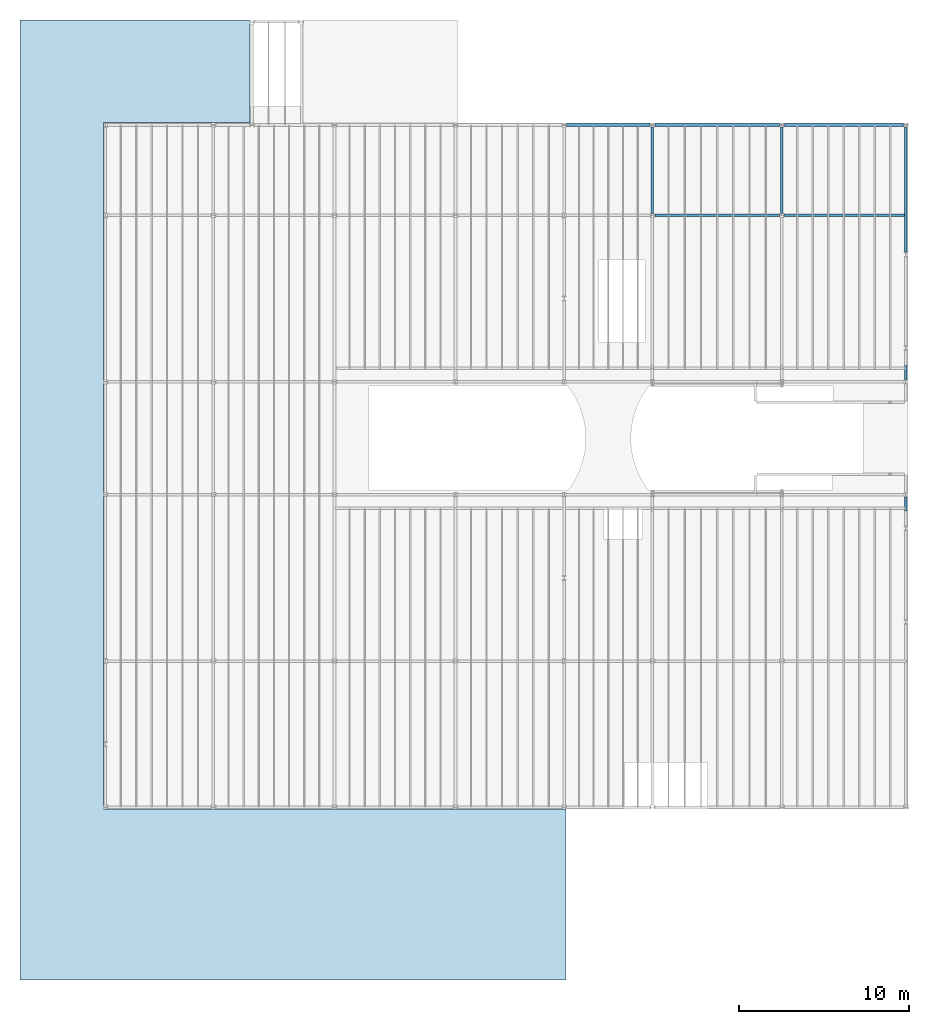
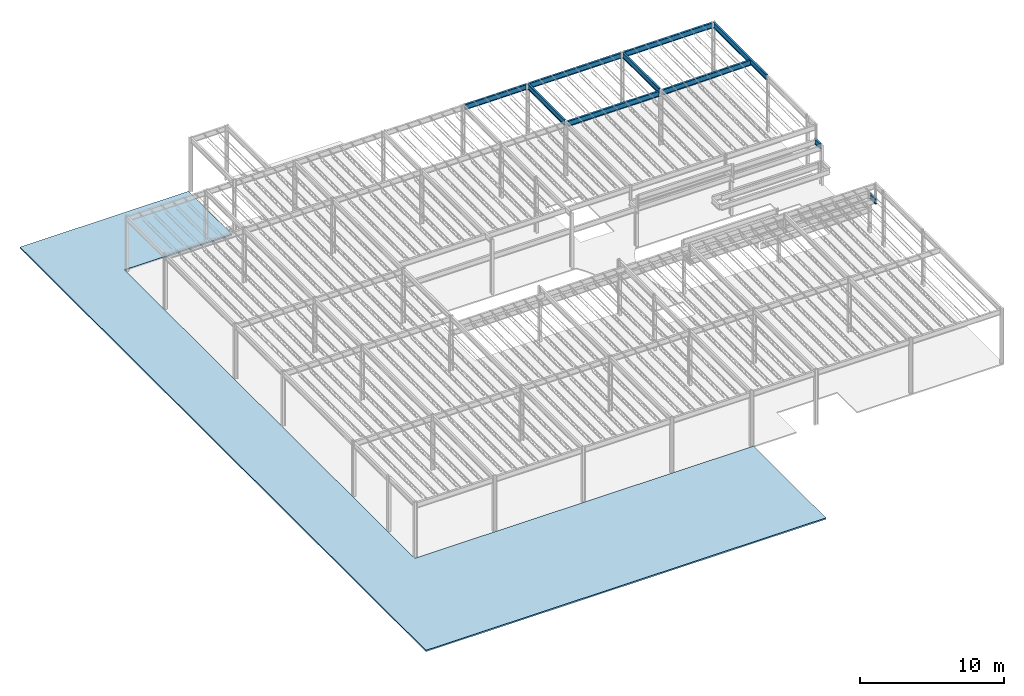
# One storey, part 18 of 119: 10 beams, 1 slab, 1 element without a shape of its own.
"""IFC2X3 building model written with IfcOpenShell, lengths in metres."""

from ifc_helpers import new_model, entity, si_unit, converted_unit, frame, frame_2d, origin, place, context, project, spatial, polyline, circle_curve, parameter, trimmed, segment, composite_curve, outline, extrude, material, layer, layer_set, layer_usage, element, aggregate, save


model = new_model("IFC2X3")

# Units and contexts
model_context = context("Model", 3, precision=1e-09, world=origin())
plan_context = context("Plan", 3, precision=1e-09, world=origin())
ifc_project = project(units=[si_unit("LENGTHUNIT", "METRE"), si_unit("AREAUNIT", "SQUARE_METRE"), si_unit("VOLUMEUNIT", "CUBIC_METRE"), converted_unit("PLANEANGLEUNIT", "DEGREE", entity("IfcRatioMeasure", 0.01745329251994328), si_unit("PLANEANGLEUNIT", "RADIAN"), dimensions=[0, 0, 0, 0, 0, 0, 0]), si_unit("TIMEUNIT", "SECOND")], contexts=[model_context, plan_context])

# Site, building, storey
site_placement = place(None, origin())
site = spatial("IfcSite", under=ifc_project, at=site_placement, Name="Default", CompositionType="ELEMENT")
building_placement = place(site_placement, origin())
building = spatial("IfcBuilding", under=site, at=building_placement, CompositionType="ELEMENT")
storey_placement = place(building_placement, frame((0.0, 0.0, 4.570000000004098)))
storey = spatial("IfcBuildingStorey", under=building, at=storey_placement, Name="Second Floor", CompositionType="ELEMENT", Elevation=4.570000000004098)

# Beams
ifc_material_1 = material(Name="Metal - Steel - 345 MPa")
beam_1_placement = place(storey_placement, frame((-7.277404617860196, 44.77999999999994, 4.616522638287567), z_axis=(-0.008722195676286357, 0.0, 0.9999619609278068), x_axis=(0.0, -1.0, 0.0)))
element("IfcBeam", 1, at=beam_1_placement, inside=storey, material=ifc_material_1, Name="M_W-Wide Flange:W460X60:W460X60", ObjectType="M_W-Wide Flange:W460X60", context=model_context, shape_type="SweptSolid", body=[
    extrude(outline(composite_curve([segment(polyline([(-0.07649999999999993, -0.214199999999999), (-0.07649999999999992, -0.2275000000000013)]), True, "CONTINUOUS"), segment(polyline([(-0.07649999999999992, -0.2275000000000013), (0.07649999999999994, -0.2275000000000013)]), True, "CONTINUOUS"), segment(polyline([(0.07649999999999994, -0.2275000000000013), (0.07649999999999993, -0.214199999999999)]), True, "CONTINUOUS"), segment(polyline([(0.07649999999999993, -0.214199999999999), (0.02170000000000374, -0.214199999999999)]), True, "CONTINUOUS"), segment(trimmed(circle_curve(frame_2d((0.02169999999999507, -0.1964999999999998), x_axis=(1.0, 0.0)), 0.0177), [parameter(180.0)], [parameter(269.9999999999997)], True, "PARAMETER"), False, "CONTINUOUS"), segment(polyline([(0.003999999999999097, -0.1964999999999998), (0.003999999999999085, 0.1964999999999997)]), True, "CONTINUOUS"), segment(trimmed(circle_curve(frame_2d((0.02169999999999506, 0.1964999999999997), x_axis=(1.0, 0.0)), 0.0177), [parameter(90.00000000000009)], [parameter(179.9999999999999)], True, "PARAMETER"), False, "CONTINUOUS"), segment(polyline([(0.02170000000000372, 0.2142), (0.07649999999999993, 0.2142)]), True, "CONTINUOUS"), segment(polyline([(0.07649999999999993, 0.2142), (0.07649999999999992, 0.2274999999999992)]), True, "CONTINUOUS"), segment(polyline([(0.07649999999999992, 0.2274999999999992), (-0.07649999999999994, 0.2274999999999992)]), True, "CONTINUOUS"), segment(polyline([(-0.07649999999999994, 0.2274999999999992), (-0.07649999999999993, 0.2142)]), True, "CONTINUOUS"), segment(polyline([(-0.07649999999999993, 0.2142), (-0.02170000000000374, 0.2142)]), True, "CONTINUOUS"), segment(trimmed(circle_curve(frame_2d((-0.02170000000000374, 0.1964999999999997), x_axis=(1.0, 0.0)), 0.0177), [parameter(359.9999999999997)], [parameter(89.99999999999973)], True, "PARAMETER"), False, "CONTINUOUS"), segment(polyline([(-0.003999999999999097, 0.1964999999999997), (-0.003999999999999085, -0.1964999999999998)]), True, "CONTINUOUS"), segment(trimmed(circle_curve(frame_2d((-0.02170000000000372, -0.1964999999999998), x_axis=(1.0, 0.0)), 0.0177), [parameter(269.9999999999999)], [parameter(0.0)], True, "PARAMETER"), False, "CONTINUOUS"), segment(polyline([(-0.02170000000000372, -0.214199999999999), (-0.07649999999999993, -0.214199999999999)]), True, "CONTINUOUS")], self_intersect=False)), frame((0.0, 0.1386045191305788, -0.2275000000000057), z_axis=(0.0, -1.0, 0.0), x_axis=(1.0, 0.0, 0.0)), (0.0, 0.0, -1.0), 7.045911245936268),
])
beam_2_placement = place(storey_placement, frame((-7.282486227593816, 50.08999999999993, 4.61649999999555), z_axis=(0.0, 0.0, 1.0), x_axis=(0.0, 1.0, 0.0)))
element("IfcBeam", 2, at=beam_2_placement, inside=storey, material=ifc_material_1, Name="M_W-Wide Flange:W460X60:W460X60", ObjectType="M_W-Wide Flange:W460X60", context=model_context, shape_type="SweptSolid", body=[
    extrude(outline(composite_curve([segment(polyline([(0.2142000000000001, -0.07649999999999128), (0.2275000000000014, -0.07649999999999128)]), True, "CONTINUOUS"), segment(polyline([(0.2275000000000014, -0.07649999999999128), (0.2275000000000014, 0.07650000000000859)]), True, "CONTINUOUS"), segment(polyline([(0.2275000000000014, 0.07650000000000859), (0.2142000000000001, 0.07650000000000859)]), True, "CONTINUOUS"), segment(polyline([(0.2142000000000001, 0.07650000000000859), (0.2142000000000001, 0.02170000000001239)]), True, "CONTINUOUS"), segment(trimmed(circle_curve(frame_2d((0.1965000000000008, 0.02170000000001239), x_axis=(1.0, 0.0)), 0.0177), [parameter(269.9999999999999)], [parameter(359.9999999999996)], True, "PARAMETER"), False, "CONTINUOUS"), segment(polyline([(0.1965000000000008, 0.004000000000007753), (-0.1964999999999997, 0.004000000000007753)]), True, "CONTINUOUS"), segment(trimmed(circle_curve(frame_2d((-0.1964999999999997, 0.02170000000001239), x_axis=(0.0, -1.0)), 0.0177), [parameter(269.9999999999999)], [parameter(359.9999999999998)], True, "PARAMETER"), False, "CONTINUOUS"), segment(polyline([(-0.2142, 0.02170000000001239), (-0.2142, 0.07650000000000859)]), True, "CONTINUOUS"), segment(polyline([(-0.2142, 0.07650000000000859), (-0.2274999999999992, 0.07650000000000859)]), True, "CONTINUOUS"), segment(polyline([(-0.2274999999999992, 0.07650000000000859), (-0.2274999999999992, -0.07649999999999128)]), True, "CONTINUOUS"), segment(polyline([(-0.2274999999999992, -0.07649999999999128), (-0.2142, -0.07649999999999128)]), True, "CONTINUOUS"), segment(polyline([(-0.2142, -0.07649999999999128), (-0.2142, -0.02169999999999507)]), True, "CONTINUOUS"), segment(trimmed(circle_curve(frame_2d((-0.1964999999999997, -0.0216999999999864), x_axis=(-1.0, 0.0)), 0.0177), [parameter(269.9999999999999)], [parameter(359.9999999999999)], True, "PARAMETER"), False, "CONTINUOUS"), segment(polyline([(-0.1964999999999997, -0.003999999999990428), (0.1965000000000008, -0.003999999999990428)]), True, "CONTINUOUS"), segment(trimmed(circle_curve(frame_2d((0.1965000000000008, -0.0216999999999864), x_axis=(0.0, 1.0)), 0.0177), [parameter(269.9999999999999)], [parameter(5.088887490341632e-14)], True, "PARAMETER"), False, "CONTINUOUS"), segment(polyline([(0.2142000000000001, -0.02169999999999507), (0.2142000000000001, -0.07649999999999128)]), True, "CONTINUOUS")], self_intersect=False)), frame((0.0, 7.456288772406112, -0.2275000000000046), z_axis=(0.0, -1.0, 0.0), x_axis=(0.0, 0.0, -1.0)), (0.0, 0.0, 1.0), 7.317574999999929),
])
beam_3_placement = place(storey_placement, frame((-7.277404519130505, 50.08999999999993, 4.61649999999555), z_axis=(0.0, 0.0, 1.0), x_axis=(0.0, -1.0, 0.0)))
element("IfcBeam", 3, at=beam_3_placement, inside=storey, material=ifc_material_1, Name="M_W-Wide Flange:W460X60:W460X60", ObjectType="M_W-Wide Flange:W460X60", context=model_context, shape_type="SweptSolid", body=[
    extrude(outline(composite_curve([segment(polyline([(-0.07650000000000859, -0.2142000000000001), (-0.07650000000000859, -0.2275000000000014)]), True, "CONTINUOUS"), segment(polyline([(-0.07650000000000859, -0.2275000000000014), (0.07649999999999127, -0.2275000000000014)]), True, "CONTINUOUS"), segment(polyline([(0.07649999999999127, -0.2275000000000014), (0.07649999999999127, -0.2142000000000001)]), True, "CONTINUOUS"), segment(polyline([(0.07649999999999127, -0.2142000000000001), (0.02169999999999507, -0.2142000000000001)]), True, "CONTINUOUS"), segment(trimmed(circle_curve(frame_2d((0.0216999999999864, -0.1965000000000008), x_axis=(0.0, -1.0)), 0.0177), [parameter(269.9999999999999)], [parameter(359.9999999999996)], True, "PARAMETER"), False, "CONTINUOUS"), segment(polyline([(0.003999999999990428, -0.1965000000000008), (0.003999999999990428, 0.1964999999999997)]), True, "CONTINUOUS"), segment(trimmed(circle_curve(frame_2d((0.0216999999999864, 0.1964999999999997), x_axis=(-1.0, 0.0)), 0.0177), [parameter(269.9999999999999)], [parameter(359.9999999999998)], True, "PARAMETER"), False, "CONTINUOUS"), segment(polyline([(0.02169999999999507, 0.2142), (0.07649999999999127, 0.2142)]), True, "CONTINUOUS"), segment(polyline([(0.07649999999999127, 0.2142), (0.07649999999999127, 0.2274999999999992)]), True, "CONTINUOUS"), segment(polyline([(0.07649999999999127, 0.2274999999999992), (-0.07650000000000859, 0.2274999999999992)]), True, "CONTINUOUS"), segment(polyline([(-0.07650000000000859, 0.2274999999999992), (-0.07650000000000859, 0.2142)]), True, "CONTINUOUS"), segment(polyline([(-0.07650000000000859, 0.2142), (-0.02170000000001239, 0.2142)]), True, "CONTINUOUS"), segment(trimmed(circle_curve(frame_2d((-0.02170000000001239, 0.1964999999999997), x_axis=(0.0, 1.0)), 0.0177), [parameter(269.9999999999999)], [parameter(359.9999999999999)], True, "PARAMETER"), False, "CONTINUOUS"), segment(polyline([(-0.004000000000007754, 0.1964999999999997), (-0.004000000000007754, -0.1965000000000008)]), True, "CONTINUOUS"), segment(trimmed(circle_curve(frame_2d((-0.02170000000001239, -0.1965000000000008), x_axis=(1.0, 0.0)), 0.0177), [parameter(269.9999999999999)], [parameter(5.088887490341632e-14)], True, "PARAMETER"), False, "CONTINUOUS"), segment(polyline([(-0.02170000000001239, -0.2142000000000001), (-0.07650000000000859, -0.2142000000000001)]), True, "CONTINUOUS")], self_intersect=False)), frame((0.0, 0.1386045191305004, -0.2275000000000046), z_axis=(0.0, -1.0, 0.0), x_axis=(1.0, 0.0, 0.0)), (0.0, 0.0, -1.0), 6.997600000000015),
])
beam_4_placement = place(storey_placement, frame((0.0, 50.08751781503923, 4.679999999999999), z_axis=(0.0, 0.0, 1.0), x_axis=(-1.0, 0.0, 0.0)))
element("IfcBeam", 4, at=beam_4_placement, inside=storey, material=ifc_material_1, Name="M_W-Wide Flange:W460X60:W460X60", ObjectType="M_W-Wide Flange:W460X60", context=model_context, shape_type="SweptSolid", body=[
    extrude(outline(composite_curve([segment(polyline([(0.214199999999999, -0.07650000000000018), (0.2275000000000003, -0.07650000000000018)]), True, "CONTINUOUS"), segment(polyline([(0.2275000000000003, -0.07650000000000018), (0.2275000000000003, 0.07650000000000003)]), True, "CONTINUOUS"), segment(polyline([(0.2275000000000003, 0.07650000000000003), (0.214199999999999, 0.07650000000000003)]), True, "CONTINUOUS"), segment(polyline([(0.214199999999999, 0.07650000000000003), (0.214199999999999, 0.02169999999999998)]), True, "CONTINUOUS"), segment(trimmed(circle_curve(frame_2d((0.1964999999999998, 0.02169999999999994), x_axis=(1.0, 0.0)), 0.0177), [parameter(269.9999999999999)], [parameter(359.9999999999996)], True, "PARAMETER"), False, "CONTINUOUS"), segment(polyline([(0.1964999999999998, 0.003999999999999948), (-0.1965000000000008, 0.003999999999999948)]), True, "CONTINUOUS"), segment(trimmed(circle_curve(frame_2d((-0.1965000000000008, 0.02169999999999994), x_axis=(0.0, -1.0)), 0.0177), [parameter(269.9999999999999)], [parameter(359.9999999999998)], True, "PARAMETER"), False, "CONTINUOUS"), segment(polyline([(-0.2142000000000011, 0.02169999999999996), (-0.2142000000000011, 0.07650000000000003)]), True, "CONTINUOUS"), segment(polyline([(-0.2142000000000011, 0.07650000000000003), (-0.2275000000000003, 0.07650000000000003)]), True, "CONTINUOUS"), segment(polyline([(-0.2275000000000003, 0.07650000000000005), (-0.2275000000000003, -0.07649999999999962)]), True, "CONTINUOUS"), segment(polyline([(-0.2275000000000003, -0.07649999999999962), (-0.2142000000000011, -0.07649999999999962)]), True, "CONTINUOUS"), segment(polyline([(-0.2142000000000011, -0.07649999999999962), (-0.2142000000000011, -0.02170000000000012)]), True, "CONTINUOUS"), segment(trimmed(circle_curve(frame_2d((-0.1965000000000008, -0.02170000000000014), x_axis=(-1.0, 0.0)), 0.0177), [parameter(269.9999999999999)], [parameter(359.9999999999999)], True, "PARAMETER"), False, "CONTINUOUS"), segment(polyline([(-0.1965000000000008, -0.004000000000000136), (0.1964999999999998, -0.004000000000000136)]), True, "CONTINUOUS"), segment(trimmed(circle_curve(frame_2d((0.1964999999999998, -0.02170000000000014), x_axis=(0.0, 1.0)), 0.0177), [parameter(269.9999999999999)], [parameter(5.088887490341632e-14)], True, "PARAMETER"), False, "CONTINUOUS"), segment(polyline([(0.214199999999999, -0.02170000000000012), (0.214199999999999, -0.07650000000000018)]), True, "CONTINUOUS")], self_intersect=False)), frame((0.0, 7.468673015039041, -0.2275000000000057), z_axis=(0.0, -1.0, 0.0), x_axis=(0.0, 0.0, -1.0)), (0.0, 0.0, 1.0), 7.356455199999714),
])
beam_5_placement = place(storey_placement, frame((-14.87997499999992, 50.08644193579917, 4.679999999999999), z_axis=(0.0, 0.0, 1.0), x_axis=(-1.0, 0.0, 0.0)))
element("IfcBeam", 5, at=beam_5_placement, inside=storey, material=ifc_material_1, Name="M_W-Wide Flange:W460X60:W460X60", ObjectType="M_W-Wide Flange:W460X60", context=model_context, shape_type="SweptSolid", body=[
    extrude(outline(composite_curve([segment(polyline([(0.214199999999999, -0.07649999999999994), (0.2275000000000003, -0.07649999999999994)]), True, "CONTINUOUS"), segment(polyline([(0.2275000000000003, -0.07649999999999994), (0.2275000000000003, 0.07649999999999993)]), True, "CONTINUOUS"), segment(polyline([(0.2275000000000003, 0.07649999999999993), (0.214199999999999, 0.07649999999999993)]), True, "CONTINUOUS"), segment(polyline([(0.214199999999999, 0.07649999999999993), (0.214199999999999, 0.02170000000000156)]), True, "CONTINUOUS"), segment(trimmed(circle_curve(frame_2d((0.1964999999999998, 0.02170000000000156), x_axis=(1.0, 0.0)), 0.0177), [parameter(269.9999999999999)], [parameter(359.9999999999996)], True, "PARAMETER"), False, "CONTINUOUS"), segment(polyline([(0.1964999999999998, 0.004000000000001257), (-0.1965000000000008, 0.004000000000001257)]), True, "CONTINUOUS"), segment(trimmed(circle_curve(frame_2d((-0.1965000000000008, 0.02170000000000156), x_axis=(0.0, -1.0)), 0.0177), [parameter(269.9999999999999)], [parameter(359.9999999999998)], True, "PARAMETER"), False, "CONTINUOUS"), segment(polyline([(-0.2142000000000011, 0.02170000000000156), (-0.2142000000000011, 0.07649999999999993)]), True, "CONTINUOUS"), segment(polyline([(-0.2142000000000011, 0.07649999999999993), (-0.2275000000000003, 0.07649999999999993)]), True, "CONTINUOUS"), segment(polyline([(-0.2275000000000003, 0.07649999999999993), (-0.2275000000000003, -0.07649999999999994)]), True, "CONTINUOUS"), segment(polyline([(-0.2275000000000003, -0.07649999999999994), (-0.2142000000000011, -0.07649999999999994)]), True, "CONTINUOUS"), segment(polyline([(-0.2142000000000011, -0.07649999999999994), (-0.2142000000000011, -0.0216999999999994)]), True, "CONTINUOUS"), segment(trimmed(circle_curve(frame_2d((-0.1965000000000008, -0.0216999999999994), x_axis=(-1.0, 0.0)), 0.0177), [parameter(269.9999999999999)], [parameter(359.9999999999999)], True, "PARAMETER"), False, "CONTINUOUS"), segment(polyline([(-0.1965000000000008, -0.00399999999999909), (0.1964999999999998, -0.00399999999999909)]), True, "CONTINUOUS"), segment(trimmed(circle_curve(frame_2d((0.1964999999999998, -0.0216999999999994), x_axis=(0.0, 1.0)), 0.0177), [parameter(269.9999999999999)], [parameter(5.088887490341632e-14)], True, "PARAMETER"), False, "CONTINUOUS"), segment(polyline([(0.214199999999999, -0.0216999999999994), (0.214199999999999, -0.07649999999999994)]), True, "CONTINUOUS")], self_intersect=False)), frame((0.0, 5.191741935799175, -0.2275000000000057), z_axis=(0.0, -1.0, 0.0), x_axis=(0.0, 0.0, -1.0)), (0.0, 0.0, 1.0), 5.080599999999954),
])
beam_6_placement = place(storey_placement, frame((-20.05635269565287, 50.08999999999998, 4.61649999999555), z_axis=(0.0, 0.0, 1.0), x_axis=(0.0, -1.0, 0.0)))
element("IfcBeam", 6, at=beam_6_placement, inside=storey, material=ifc_material_1, Name="M_W-Wide Flange:W460X60:W460X60", ObjectType="M_W-Wide Flange:W460X60", context=model_context, shape_type="SweptSolid", body=[
    extrude(outline(composite_curve([segment(polyline([(-0.07649999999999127, -0.2142000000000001), (-0.07649999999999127, -0.2275000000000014)]), True, "CONTINUOUS"), segment(polyline([(-0.07649999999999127, -0.2275000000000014), (0.07650000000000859, -0.2275000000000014)]), True, "CONTINUOUS"), segment(polyline([(0.07650000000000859, -0.2275000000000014), (0.07650000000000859, -0.2142000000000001)]), True, "CONTINUOUS"), segment(polyline([(0.07650000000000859, -0.2142000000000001), (0.02170000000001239, -0.2142000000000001)]), True, "CONTINUOUS"), segment(trimmed(circle_curve(frame_2d((0.02170000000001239, -0.1965000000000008), x_axis=(0.0, -1.0)), 0.0177), [parameter(269.9999999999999)], [parameter(359.9999999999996)], True, "PARAMETER"), False, "CONTINUOUS"), segment(polyline([(0.004000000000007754, -0.1965000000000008), (0.004000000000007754, 0.1964999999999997)]), True, "CONTINUOUS"), segment(trimmed(circle_curve(frame_2d((0.02170000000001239, 0.1964999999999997), x_axis=(-1.0, 0.0)), 0.0177), [parameter(269.9999999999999)], [parameter(359.9999999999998)], True, "PARAMETER"), False, "CONTINUOUS"), segment(polyline([(0.02170000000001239, 0.2142), (0.07650000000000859, 0.2142)]), True, "CONTINUOUS"), segment(polyline([(0.07650000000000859, 0.2142), (0.07650000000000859, 0.2274999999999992)]), True, "CONTINUOUS"), segment(polyline([(0.07650000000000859, 0.2274999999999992), (-0.07649999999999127, 0.2274999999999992)]), True, "CONTINUOUS"), segment(polyline([(-0.07649999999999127, 0.2274999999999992), (-0.07649999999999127, 0.2142)]), True, "CONTINUOUS"), segment(polyline([(-0.07649999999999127, 0.2142), (-0.02169999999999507, 0.2142)]), True, "CONTINUOUS"), segment(trimmed(circle_curve(frame_2d((-0.0216999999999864, 0.1964999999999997), x_axis=(0.0, 1.0)), 0.0177), [parameter(269.9999999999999)], [parameter(359.9999999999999)], True, "PARAMETER"), False, "CONTINUOUS"), segment(polyline([(-0.003999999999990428, 0.1964999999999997), (-0.003999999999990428, -0.1965000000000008)]), True, "CONTINUOUS"), segment(trimmed(circle_curve(frame_2d((-0.0216999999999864, -0.1965000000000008), x_axis=(1.0, 0.0)), 0.0177), [parameter(269.9999999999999)], [parameter(5.088887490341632e-14)], True, "PARAMETER"), False, "CONTINUOUS"), segment(polyline([(-0.02169999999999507, -0.2142000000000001), (-0.07649999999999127, -0.2142000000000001)]), True, "CONTINUOUS")], self_intersect=False)), frame((0.0, 0.1375526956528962, -0.2275000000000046), z_axis=(0.0, -1.0, 0.0), x_axis=(1.0, 0.0, 0.0)), (0.0, 0.0, -1.0), 4.897625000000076),
])
beam_7_placement = place(storey_placement, frame((-14.8774887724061, 44.77999999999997, 4.61649999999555), z_axis=(0.0, 0.0, 1.0), x_axis=(0.0, -1.0, 0.0)))
element("IfcBeam", 7, at=beam_7_placement, inside=storey, material=ifc_material_1, Name="M_W-Wide Flange:W460X60:W460X60", ObjectType="M_W-Wide Flange:W460X60", context=model_context, shape_type="SweptSolid", body=[
    extrude(outline(composite_curve([segment(polyline([(-0.07649999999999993, -0.2142000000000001), (-0.07649999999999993, -0.2275000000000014)]), True, "CONTINUOUS"), segment(polyline([(-0.07649999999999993, -0.2275000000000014), (0.07649999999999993, -0.2275000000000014)]), True, "CONTINUOUS"), segment(polyline([(0.07649999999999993, -0.2275000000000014), (0.07649999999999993, -0.2142000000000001)]), True, "CONTINUOUS"), segment(polyline([(0.07649999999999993, -0.2142000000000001), (0.02170000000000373, -0.2142000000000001)]), True, "CONTINUOUS"), segment(trimmed(circle_curve(frame_2d((0.02169999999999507, -0.1965000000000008), x_axis=(0.0, -1.0)), 0.0177), [parameter(269.9999999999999)], [parameter(359.9999999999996)], True, "PARAMETER"), False, "CONTINUOUS"), segment(polyline([(0.003999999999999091, -0.1965000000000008), (0.003999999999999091, 0.1964999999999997)]), True, "CONTINUOUS"), segment(trimmed(circle_curve(frame_2d((0.02169999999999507, 0.1964999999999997), x_axis=(-1.0, 0.0)), 0.0177), [parameter(269.9999999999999)], [parameter(359.9999999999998)], True, "PARAMETER"), False, "CONTINUOUS"), segment(polyline([(0.02170000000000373, 0.2142), (0.07649999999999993, 0.2142)]), True, "CONTINUOUS"), segment(polyline([(0.07649999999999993, 0.2142), (0.07649999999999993, 0.2274999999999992)]), True, "CONTINUOUS"), segment(polyline([(0.07649999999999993, 0.2274999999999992), (-0.07649999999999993, 0.2274999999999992)]), True, "CONTINUOUS"), segment(polyline([(-0.07649999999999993, 0.2274999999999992), (-0.07649999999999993, 0.2142)]), True, "CONTINUOUS"), segment(polyline([(-0.07649999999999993, 0.2142), (-0.02170000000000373, 0.2142)]), True, "CONTINUOUS"), segment(trimmed(circle_curve(frame_2d((-0.02170000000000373, 0.1964999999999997), x_axis=(0.0, 1.0)), 0.0177), [parameter(269.9999999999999)], [parameter(359.9999999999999)], True, "PARAMETER"), False, "CONTINUOUS"), segment(polyline([(-0.003999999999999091, 0.1964999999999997), (-0.003999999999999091, -0.1965000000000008)]), True, "CONTINUOUS"), segment(trimmed(circle_curve(frame_2d((-0.02170000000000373, -0.1965000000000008), x_axis=(1.0, 0.0)), 0.0177), [parameter(269.9999999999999)], [parameter(5.088887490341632e-14)], True, "PARAMETER"), False, "CONTINUOUS"), segment(polyline([(-0.02170000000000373, -0.2142000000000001), (-0.07649999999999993, -0.2142000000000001)]), True, "CONTINUOUS")], self_intersect=False)), frame((0.0, 0.1387137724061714, -0.2275000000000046), z_axis=(0.0, -1.0, 0.0), x_axis=(1.0, 0.0, 0.0)), (0.0, 0.0, -1.0), 7.31757499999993),
])
beam_8_placement = place(storey_placement, frame((-7.280000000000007, 44.78355806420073, 4.68)))
element("IfcBeam", 8, at=beam_8_placement, inside=storey, material=ifc_material_1, Name="M_W-Wide Flange:W460X60:W460X60", ObjectType="M_W-Wide Flange:W460X60", context=model_context, shape_type="SweptSolid", body=[
    extrude(outline(composite_curve([segment(polyline([(-0.07650000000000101, -0.214199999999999), (-0.07650000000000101, -0.2275000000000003)]), True, "CONTINUOUS"), segment(polyline([(-0.07650000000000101, -0.2275000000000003), (0.07649999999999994, -0.2275000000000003)]), True, "CONTINUOUS"), segment(polyline([(0.07649999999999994, -0.2275000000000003), (0.07649999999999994, -0.214199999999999)]), True, "CONTINUOUS"), segment(polyline([(0.07649999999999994, -0.214199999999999), (0.0216999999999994, -0.214199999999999)]), True, "CONTINUOUS"), segment(trimmed(circle_curve(frame_2d((0.0216999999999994, -0.1964999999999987), x_axis=(0.0, -1.0)), 0.0177), [parameter(269.9999999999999)], [parameter(359.9999999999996)], True, "PARAMETER"), False, "CONTINUOUS"), segment(polyline([(0.003999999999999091, -0.1964999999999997), (0.003999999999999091, 0.1965000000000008)]), True, "CONTINUOUS"), segment(trimmed(circle_curve(frame_2d((0.0216999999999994, 0.1965000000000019), x_axis=(-1.0, 0.0)), 0.0177), [parameter(269.9999999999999)], [parameter(359.9999999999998)], True, "PARAMETER"), False, "CONTINUOUS"), segment(polyline([(0.0216999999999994, 0.2142000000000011), (0.07649999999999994, 0.2142000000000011)]), True, "CONTINUOUS"), segment(polyline([(0.07649999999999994, 0.2142000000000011), (0.07649999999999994, 0.2275000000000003)]), True, "CONTINUOUS"), segment(polyline([(0.07649999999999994, 0.2275000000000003), (-0.07649999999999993, 0.2275000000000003)]), True, "CONTINUOUS"), segment(polyline([(-0.07649999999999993, 0.2275000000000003), (-0.07649999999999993, 0.2142000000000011)]), True, "CONTINUOUS"), segment(polyline([(-0.07649999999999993, 0.2142000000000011), (-0.02170000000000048, 0.2142000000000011)]), True, "CONTINUOUS"), segment(trimmed(circle_curve(frame_2d((-0.02170000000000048, 0.1965000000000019), x_axis=(0.0, 1.0)), 0.0177), [parameter(269.9999999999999)], [parameter(359.9999999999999)], True, "PARAMETER"), False, "CONTINUOUS"), segment(polyline([(-0.004000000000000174, 0.1965000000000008), (-0.004000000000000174, -0.1964999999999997)]), True, "CONTINUOUS"), segment(trimmed(circle_curve(frame_2d((-0.02170000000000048, -0.1964999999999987), x_axis=(1.0, 0.0)), 0.0177), [parameter(269.9999999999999)], [parameter(5.088887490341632e-14)], True, "PARAMETER"), False, "CONTINUOUS"), segment(polyline([(-0.02170000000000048, -0.214199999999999), (-0.07650000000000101, -0.214199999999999)]), True, "CONTINUOUS")], self_intersect=False)), frame((0.0, 0.1111419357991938, -0.2275000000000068), z_axis=(0.0, -1.0, 0.0), x_axis=(1.0, 0.0, 0.0)), (0.0, 0.0, -1.0), 5.080599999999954),
])
beam_9_placement = place(storey_placement, frame((0.0, 28.32535248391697, 3.366499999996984)))
element("IfcBeam", 9, at=beam_9_placement, inside=storey, material=ifc_material_1, Name="M_W-Wide Flange:W460X60:W460X60", ObjectType="M_W-Wide Flange:W460X60", context=model_context, shape_type="SweptSolid", body=[
    extrude(outline(composite_curve([segment(polyline([(0.214199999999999, -0.07650000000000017), (0.2275000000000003, -0.07650000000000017)]), True, "CONTINUOUS"), segment(polyline([(0.2275000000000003, -0.07650000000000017), (0.2275000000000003, 0.07650000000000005)]), True, "CONTINUOUS"), segment(polyline([(0.2275000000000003, 0.07650000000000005), (0.214199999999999, 0.07650000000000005)]), True, "CONTINUOUS"), segment(polyline([(0.214199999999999, 0.07650000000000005), (0.214199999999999, 0.02169999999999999)]), True, "CONTINUOUS"), segment(trimmed(circle_curve(frame_2d((0.1964999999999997, 0.02169999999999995), x_axis=(0.0, 1.0)), 0.0177), [parameter(180.0)], [parameter(269.9999999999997)], True, "PARAMETER"), False, "CONTINUOUS"), segment(polyline([(0.1964999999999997, 0.003999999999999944), (-0.1965000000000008, 0.003999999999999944)]), True, "CONTINUOUS"), segment(trimmed(circle_curve(frame_2d((-0.1965000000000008, 0.02169999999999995), x_axis=(0.0, 1.0)), 0.0177), [parameter(90.00000000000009)], [parameter(179.9999999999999)], True, "PARAMETER"), False, "CONTINUOUS"), segment(polyline([(-0.2142000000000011, 0.02169999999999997), (-0.2142000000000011, 0.07650000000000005)]), True, "CONTINUOUS"), segment(polyline([(-0.2142000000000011, 0.07650000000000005), (-0.2275000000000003, 0.07650000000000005)]), True, "CONTINUOUS"), segment(polyline([(-0.2275000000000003, 0.07650000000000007), (-0.2275000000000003, -0.0764999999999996)]), True, "CONTINUOUS"), segment(polyline([(-0.2275000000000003, -0.0764999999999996), (-0.2142000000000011, -0.0764999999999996)]), True, "CONTINUOUS"), segment(polyline([(-0.2142000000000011, -0.0764999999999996), (-0.2142000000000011, -0.02170000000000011)]), True, "CONTINUOUS"), segment(trimmed(circle_curve(frame_2d((-0.1965000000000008, -0.02170000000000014), x_axis=(0.0, 1.0)), 0.0177), [parameter(359.9999999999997)], [parameter(89.99999999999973)], True, "PARAMETER"), False, "CONTINUOUS"), segment(polyline([(-0.1965000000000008, -0.00400000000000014), (0.1964999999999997, -0.00400000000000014)]), True, "CONTINUOUS"), segment(trimmed(circle_curve(frame_2d((0.1964999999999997, -0.02170000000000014), x_axis=(0.0, 1.0)), 0.0177), [parameter(269.9999999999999)], [parameter(0.0)], True, "PARAMETER"), False, "CONTINUOUS"), segment(polyline([(0.214199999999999, -0.02170000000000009), (0.214199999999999, -0.07650000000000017)]), True, "CONTINUOUS")], self_intersect=False)), frame((0.0, -0.9003524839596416, -0.2275000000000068), z_axis=(0.0, 1.0, 0.0), x_axis=(0.0, 0.0, -1.0)), (0.0, 0.0, 1.0), 0.8138000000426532),
])
beam_10_placement = place(storey_placement, frame((0.0, 35.06464751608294, 3.366499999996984), z_axis=(0.0, 0.0, 1.0), x_axis=(-1.0, 0.0, 0.0)))
element("IfcBeam", 10, at=beam_10_placement, inside=storey, material=ifc_material_1, Name="M_W-Wide Flange:W460X60:W460X60", ObjectType="M_W-Wide Flange:W460X60", context=model_context, shape_type="SweptSolid", body=[
    extrude(outline(composite_curve([segment(polyline([(0.2141999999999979, -0.07650000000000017), (0.2274999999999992, -0.07650000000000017)]), True, "CONTINUOUS"), segment(polyline([(0.2274999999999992, -0.07650000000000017), (0.2274999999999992, 0.07650000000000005)]), True, "CONTINUOUS"), segment(polyline([(0.2274999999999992, 0.07650000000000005), (0.2141999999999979, 0.07650000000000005)]), True, "CONTINUOUS"), segment(polyline([(0.2141999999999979, 0.07650000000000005), (0.2141999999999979, 0.02169999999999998)]), True, "CONTINUOUS"), segment(trimmed(circle_curve(frame_2d((0.1964999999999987, 0.02169999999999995), x_axis=(0.0, 1.0)), 0.0177), [parameter(180.0)], [parameter(269.9999999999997)], True, "PARAMETER"), False, "CONTINUOUS"), segment(polyline([(0.1964999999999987, 0.003999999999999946), (-0.1965000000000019, 0.003999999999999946)]), True, "CONTINUOUS"), segment(trimmed(circle_curve(frame_2d((-0.1965000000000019, 0.02169999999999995), x_axis=(0.0, 1.0)), 0.0177), [parameter(90.00000000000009)], [parameter(179.9999999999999)], True, "PARAMETER"), False, "CONTINUOUS"), segment(polyline([(-0.2142000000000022, 0.02169999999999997), (-0.2142000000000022, 0.07650000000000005)]), True, "CONTINUOUS"), segment(polyline([(-0.2142000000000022, 0.07650000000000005), (-0.2275000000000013, 0.07650000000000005)]), True, "CONTINUOUS"), segment(polyline([(-0.2275000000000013, 0.07650000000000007), (-0.2275000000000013, -0.0764999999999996)]), True, "CONTINUOUS"), segment(polyline([(-0.2275000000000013, -0.0764999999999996), (-0.2142000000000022, -0.0764999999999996)]), True, "CONTINUOUS"), segment(polyline([(-0.2142000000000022, -0.0764999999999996), (-0.2142000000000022, -0.02170000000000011)]), True, "CONTINUOUS"), segment(trimmed(circle_curve(frame_2d((-0.1965000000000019, -0.02170000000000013), x_axis=(0.0, 1.0)), 0.0177), [parameter(359.9999999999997)], [parameter(89.99999999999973)], True, "PARAMETER"), False, "CONTINUOUS"), segment(polyline([(-0.1965000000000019, -0.004000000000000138), (0.1964999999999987, -0.004000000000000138)]), True, "CONTINUOUS"), segment(trimmed(circle_curve(frame_2d((0.1964999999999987, -0.02170000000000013), x_axis=(0.0, 1.0)), 0.0177), [parameter(269.9999999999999)], [parameter(0.0)], True, "PARAMETER"), False, "CONTINUOUS"), segment(polyline([(0.2141999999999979, -0.02170000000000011), (0.2141999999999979, -0.07650000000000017)]), True, "CONTINUOUS")], self_intersect=False)), frame((0.0, -0.08655248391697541, -0.2275000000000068), z_axis=(0.0, -1.0, 0.0), x_axis=(0.0, 0.0, -1.0)), (0.0, 0.0, 1.0), 0.8138000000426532),
])

# Roof, slab
ifc_material_2 = material(Name="Roofing - EPDM Membrane")
ifc_layer_1 = layer(ifc_material_2, 0.006)
ifc_material_3 = material(Name="Insulation / Thermal Barriers - Rigid insulation")
ifc_layer_2 = layer(ifc_material_3, 0.076)
ifc_material_4 = material(Name="Metal - Decking")
ifc_layer_3 = layer(ifc_material_4, 0.038)
ifc_layer_set = layer_set([ifc_layer_1, ifc_layer_2, ifc_layer_3], Name="Basic Roof:EPDM Membrane on Rigid Insul on Metal Deck")
ifc_layer_usage = layer_usage(ifc_layer_set, "AXIS3", "NEGATIVE", 0.0)
roof_placement = place(storey_placement, origin())
roof = element("IfcRoof", 11, at=roof_placement, inside=storey, material=ifc_layer_usage, Name="Basic Roof:EPDM Membrane on Rigid Insul on Metal Deck", ObjectType="Basic Roof:EPDM Membrane on Rigid Insul on Metal Deck", ShapeType="NOTDEFINED")
slab_placement = place(roof_placement, frame((-52.01300000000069, -0.1130000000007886, -0.1019999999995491)))
slab = element("IfcSlab", 12, at=slab_placement, Name="Basic Roof:EPDM Membrane on Rigid Insul on Metal Deck", ObjectType="Basic Roof:EPDM Membrane on Rigid Insul on Metal Deck", PredefinedType="ROOF", context=model_context, shape_type="SweptSolid", body=[
    extrude(outline(polyline([(16.03300000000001, -28.18300000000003), (16.03300000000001, -18.14300000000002), (-11.13299999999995, -18.14300000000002), (-11.13299999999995, 22.16743871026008), (-2.522999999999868, 22.16743871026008), (-2.522999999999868, 28.18300000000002), (-16.033, 28.18300000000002), (-16.033, -28.18300000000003), (16.03300000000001, -28.18300000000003)])), frame((16.033, 28.18300000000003, 0.0)), (0.0, 0.0, 1.0), 0.1199999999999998),
])
aggregate(roof, [slab])

save(model, "model.ifc")
